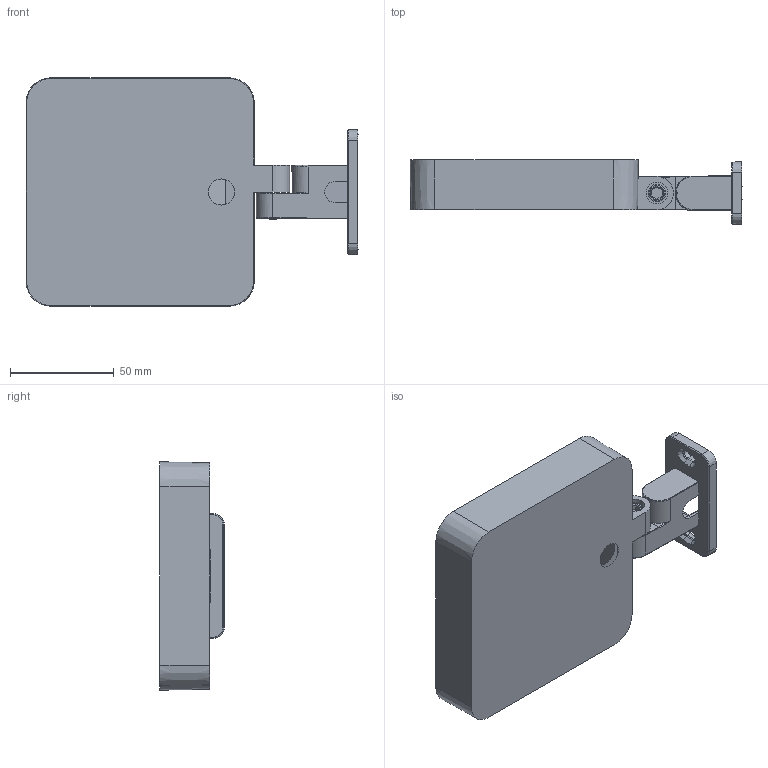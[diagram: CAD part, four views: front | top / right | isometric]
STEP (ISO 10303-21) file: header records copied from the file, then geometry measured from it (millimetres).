
FILE_DESCRIPTION((''),'2;1');
FILE_NAME('TAG110-PIASTRALED_SW0005','2025-07-28T15:02:50',('Piccioli'),(''),'CREO PARAMETRIC BY PTC INC, 2025010','CREO PARAMETRIC BY PTC INC, 2025010','');
FILE_SCHEMA(('CONFIG_CONTROL_DESIGN'));
Length unit declared in the file: millimetre
Products named in the file (1): TAG110-PIASTRALED_SW0005
Bounding box: 160 x 31 x 110 mm (x, y, z)
Surface area: 74360 mm2 (no closed solid volume)
Topology: 0 solids, 17 shells, 275 faces, 988 edges, 727 vertices
Faces by surface type: plane 97, cylinder 55, cone 50, torus 44, bspline 27, sphere 2
Entity records: 14319 total; most frequent: CARTESIAN_POINT 6221, DIRECTION 1606, ORIENTED_EDGE 1537, EDGE_CURVE 988, VERTEX_POINT 727, AXIS2_PLACEMENT_3D 569, VECTOR 468, LINE 468
